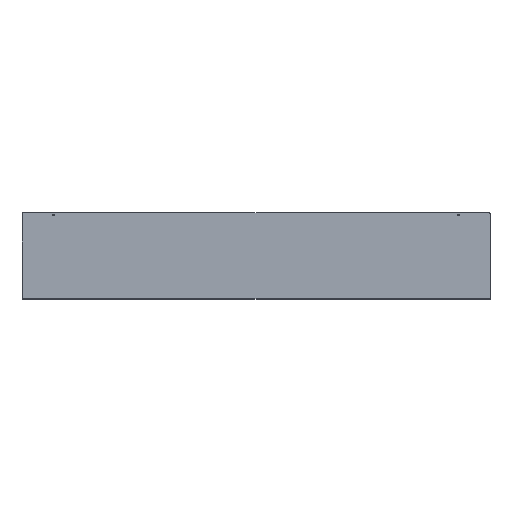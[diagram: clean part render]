
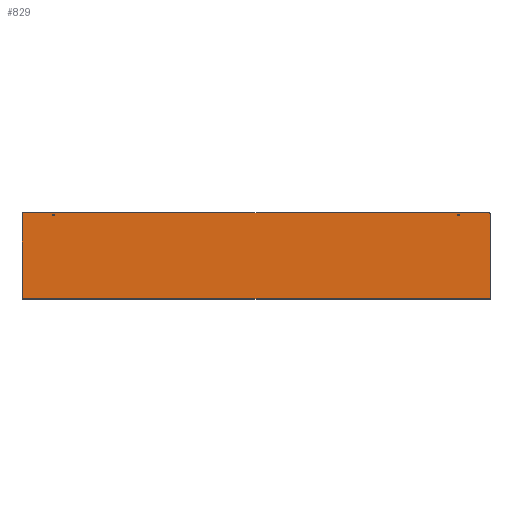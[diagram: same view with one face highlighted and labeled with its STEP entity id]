
A CAD part, top view. The second image highlights one B-rep face of the part: STEP entity #829.
In plain terms, the highlighted planar face has unit normal (0, 0, 1).
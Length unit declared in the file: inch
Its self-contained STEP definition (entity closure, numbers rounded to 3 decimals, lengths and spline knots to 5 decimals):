
#219=CARTESIAN_POINT('',(29.625,5.5,0.055));
#220=VERTEX_POINT('',#219);
#221=CARTESIAN_POINT('',(29.75,5.375,0.055));
#222=VERTEX_POINT('',#221);
#223=CARTESIAN_POINT('',(29.625,5.375,0.055));
#224=DIRECTION('',(0.0,0.0,-1.0));
#225=DIRECTION('',(0.707,0.707,0.0));
#226=AXIS2_PLACEMENT_3D('',#223,#224,#225);
#227=CIRCLE('',#226,0.125);
#228=EDGE_CURVE('',#220,#222,#227,.T.);
#270=CARTESIAN_POINT('',(-29.625,5.5,0.055));
#271=VERTEX_POINT('',#270);
#278=CARTESIAN_POINT('',(-29.625,5.5,0.055));
#279=DIRECTION('',(1.0,0.0,0.0));
#280=VECTOR('',#279,59.25);
#281=LINE('',#278,#280);
#282=EDGE_CURVE('',#271,#220,#281,.T.);
#355=CARTESIAN_POINT('',(-29.75,5.375,0.055));
#356=VERTEX_POINT('',#355);
#357=CARTESIAN_POINT('',(-29.625,5.375,0.055));
#358=DIRECTION('',(0.0,0.0,-1.0));
#359=DIRECTION('',(-0.707,0.707,0.0));
#360=AXIS2_PLACEMENT_3D('',#357,#358,#359);
#361=CIRCLE('',#360,0.125);
#362=EDGE_CURVE('',#356,#271,#361,.T.);
#382=CARTESIAN_POINT('',(-29.75,-5.414,0.055));
#383=VERTEX_POINT('',#382);
#390=CARTESIAN_POINT('',(-29.75,-5.414,0.055));
#391=DIRECTION('',(0.0,1.0,0.0));
#392=VECTOR('',#391,10.789);
#393=LINE('',#390,#392);
#394=EDGE_CURVE('',#383,#356,#393,.T.);
#620=CARTESIAN_POINT('',(-25.8385,5.25,0.055));
#621=VERTEX_POINT('',#620);
#622=CARTESIAN_POINT('',(-25.75,5.25,0.055));
#623=DIRECTION('',(0.0,0.0,-1.0));
#624=DIRECTION('',(1.0,0.0,0.0));
#625=AXIS2_PLACEMENT_3D('',#622,#623,#624);
#626=CIRCLE('',#625,0.0885);
#627=EDGE_CURVE('',#621,#621,#626,.T.);
#640=CARTESIAN_POINT('',(25.6615,5.25,0.055));
#641=VERTEX_POINT('',#640);
#642=CARTESIAN_POINT('',(25.75,5.25,0.055));
#643=DIRECTION('',(0.0,0.0,-1.0));
#644=DIRECTION('',(1.0,0.0,0.0));
#645=AXIS2_PLACEMENT_3D('',#642,#643,#644);
#646=CIRCLE('',#645,0.0885);
#647=EDGE_CURVE('',#641,#641,#646,.T.);
#709=CARTESIAN_POINT('',(29.75,-5.414,0.055));
#710=VERTEX_POINT('',#709);
#783=CARTESIAN_POINT('',(-29.75,-5.414,0.055));
#784=DIRECTION('',(1.0,0.0,0.0));
#785=VECTOR('',#784,59.5);
#786=LINE('',#783,#785);
#787=EDGE_CURVE('',#383,#710,#786,.T.);
#799=CARTESIAN_POINT('',(29.75,5.375,0.055));
#800=DIRECTION('',(0.0,-1.0,0.0));
#801=VECTOR('',#800,10.789);
#802=LINE('',#799,#801);
#803=EDGE_CURVE('',#222,#710,#802,.T.);
#810=CARTESIAN_POINT('',(0.0,0.,0.055));
#811=DIRECTION('',(0.0,0.0,1.0));
#812=DIRECTION('',(1.0,0.0,0.0));
#813=AXIS2_PLACEMENT_3D('',#810,#811,#812);
#814=PLANE('',#813);
#815=ORIENTED_EDGE('',*,*,#228,.F.);
#816=ORIENTED_EDGE('',*,*,#282,.F.);
#817=ORIENTED_EDGE('',*,*,#362,.F.);
#818=ORIENTED_EDGE('',*,*,#394,.F.);
#819=ORIENTED_EDGE('',*,*,#787,.T.);
#820=ORIENTED_EDGE('',*,*,#803,.F.);
#821=EDGE_LOOP('',(#815,#816,#817,#818,#819,#820));
#822=FACE_OUTER_BOUND('',#821,.T.);
#823=ORIENTED_EDGE('',*,*,#627,.T.);
#824=EDGE_LOOP('',(#823));
#825=FACE_BOUND('',#824,.T.);
#826=ORIENTED_EDGE('',*,*,#647,.T.);
#827=EDGE_LOOP('',(#826));
#828=FACE_BOUND('',#827,.T.);
#829=ADVANCED_FACE('',(#822,#825,#828),#814,.T.);
